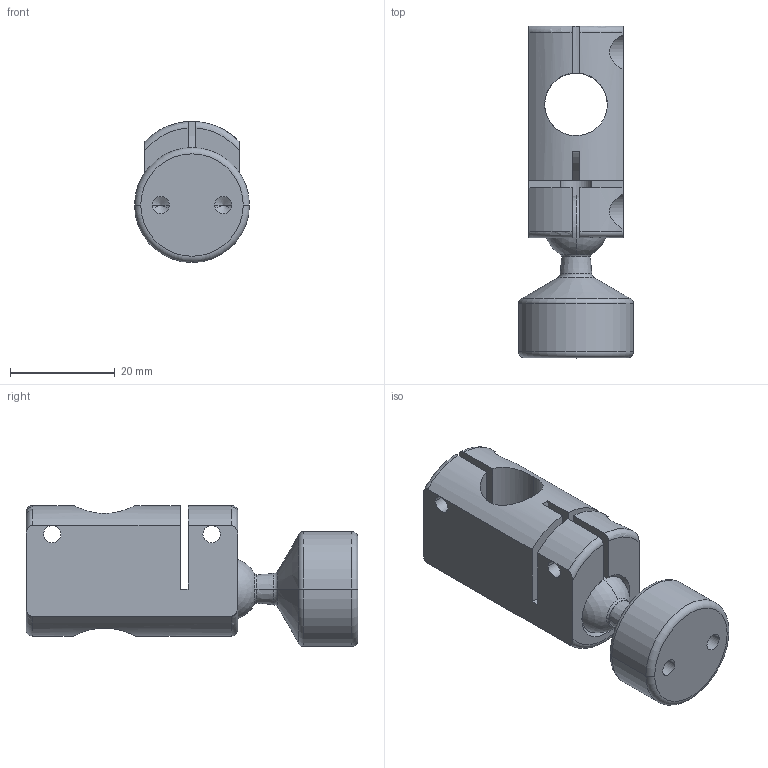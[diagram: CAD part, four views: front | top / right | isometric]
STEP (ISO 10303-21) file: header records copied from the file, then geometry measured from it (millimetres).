
FILE_DESCRIPTION (( 'STEP AP214' ), '1' );
FILE_NAME ('SBC360G.STEP', '2025-07-23T01:36:50', ( '' ), ( '' ), 'SwSTEP 2.0', 'SolidWorks 2024', '' );
FILE_SCHEMA (( 'AUTOMOTIVE_DESIGN' ));
Length unit declared in the file: millimetre
Products named in the file (3): SBC360G; SBC12-860; SBC12-001
Assembly tree (2 placements, depth 2):
  SBC360G
    SBC12-001
    SBC12-860
Bounding box: 22 x 63.5 x 27 mm (x, y, z)
Volume: 16065.7 mm3; surface area: 8343.8 mm2
Topology: 2 solids, 2 shells, 93 faces, 250 edges, 154 vertices
Faces by surface type: cylinder 40, plane 19, torus 16, cone 14, sphere 4
Entity records: 3224 total; most frequent: CARTESIAN_POINT 841, DIRECTION 519, ORIENTED_EDGE 470, EDGE_CURVE 235, AXIS2_PLACEMENT_3D 213, VERTEX_POINT 147, CIRCLE 115, EDGE_LOOP 104
